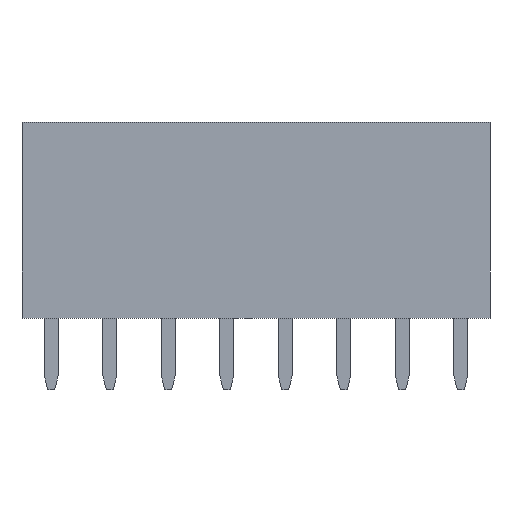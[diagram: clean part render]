
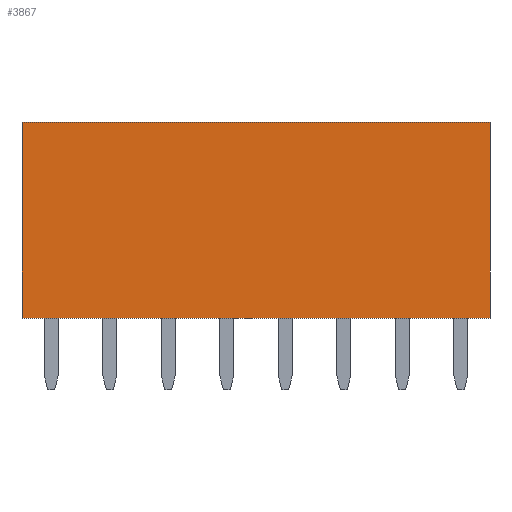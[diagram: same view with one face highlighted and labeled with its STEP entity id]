
A CAD part, left-side view. The second image highlights one B-rep face of the part: STEP entity #3867.
In plain terms, the highlighted planar face has unit normal (-1, 0, 0).
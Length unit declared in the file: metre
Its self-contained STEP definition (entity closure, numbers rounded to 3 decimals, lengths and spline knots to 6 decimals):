
#1029=ORIENTED_EDGE('',*,*,#1637,.T.);
#1030=ORIENTED_EDGE('',*,*,#1638,.T.);
#1031=ORIENTED_EDGE('',*,*,#1639,.F.);
#1032=ORIENTED_EDGE('',*,*,#1640,.F.);
#1637=EDGE_CURVE('',#1981,#1982,#2493,.T.);
#1638=EDGE_CURVE('',#1982,#1983,#2494,.T.);
#1639=EDGE_CURVE('',#1984,#1983,#2495,.T.);
#1640=EDGE_CURVE('',#1981,#1984,#2496,.T.);
#1981=VERTEX_POINT('',#6564);
#1982=VERTEX_POINT('',#6565);
#1983=VERTEX_POINT('',#6567);
#1984=VERTEX_POINT('',#6569);
#2493=LINE('',#6563,#3013);
#2494=LINE('',#6566,#3014);
#2495=LINE('',#6568,#3015);
#2496=LINE('',#6570,#3016);
#3013=VECTOR('',#5511,1.);
#3014=VECTOR('',#5512,1.);
#3015=VECTOR('',#5513,1.);
#3016=VECTOR('',#5514,1.);
#3229=EDGE_LOOP('',(#1029,#1030,#1031,#1032));
#3447=FACE_BOUND('',#3229,.T.);
#3665=PLANE('',#4617);
#3867=ADVANCED_FACE('',(#3447),#3665,.F.);
#4617=AXIS2_PLACEMENT_3D('',#6562,#5509,#5510);
#5509=DIRECTION('',(1.,0.,0.));
#5510=DIRECTION('',(0.,-1.,0.));
#5511=DIRECTION('',(0.,-1.,0.));
#5512=DIRECTION('',(0.,0.,1.));
#5513=DIRECTION('',(0.,-1.,0.));
#5514=DIRECTION('',(0.,0.,1.));
#6562=CARTESIAN_POINT('',(0.16315,-0.08984,0.001595));
#6563=CARTESIAN_POINT('',(0.16315,-0.08984,0.001595));
#6564=CARTESIAN_POINT('',(0.16315,-0.08984,0.001595));
#6565=CARTESIAN_POINT('',(0.16315,-0.11016,0.001595));
#6566=CARTESIAN_POINT('',(0.16315,-0.11016,0.001595));
#6567=CARTESIAN_POINT('',(0.16315,-0.11016,0.010095));
#6568=CARTESIAN_POINT('',(0.16315,-0.08984,0.010095));
#6569=CARTESIAN_POINT('',(0.16315,-0.08984,0.010095));
#6570=CARTESIAN_POINT('',(0.16315,-0.08984,0.001595));
